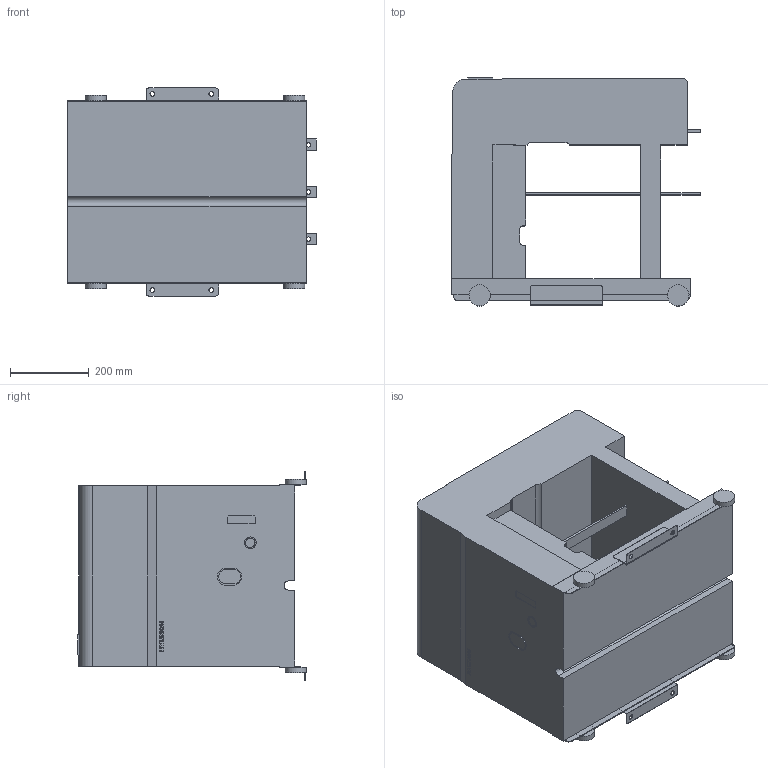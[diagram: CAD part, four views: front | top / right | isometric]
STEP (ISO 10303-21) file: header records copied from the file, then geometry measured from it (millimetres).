
FILE_DESCRIPTION(('STEP AP214'), '1');
FILE_NAME('Ñòàöèîíàðíîå èñïîëíåíèå 3,6_7,2êÂ (À3)', '', ('UNSPECIFIED'), ('UNSPECIFIED'), 'ASCON STEP Converter 1.3', 'ASCON Math Kernel', '');
FILE_SCHEMA(('AUTOMOTIVE_DESIGN { 1 0 10303 214 3 1 1}'));
Length unit declared in the file: millimetre
Bounding box: 634.01 x 581.83 x 530 mm (x, y, z)
Volume: 92981182.3 mm3; surface area: 2338788.6 mm2
Topology: 1 solids, 1 shells, 268 faces, 722 edges, 476 vertices
Faces by surface type: plane 192, cylinder 50, extrusion 26
Full cylindrical faces by diameter (mm): 4 x3, 6 x6, 11 x6, 12 x4, 24 x1, 30 x1, 54 x4
Entity records: 10515 total; most frequent: CARTESIAN_POINT 1598, ORIENTED_EDGE 1394, DIRECTION 1267, EDGE_CURVE 697, VECTOR 561, LINE 535, VERTEX_POINT 476, EDGE_LOOP 359
